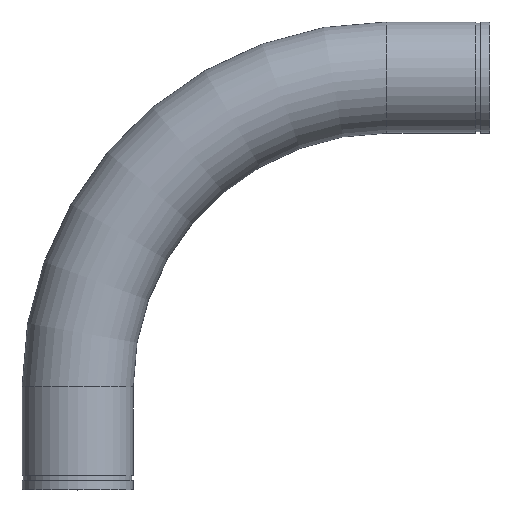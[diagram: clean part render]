
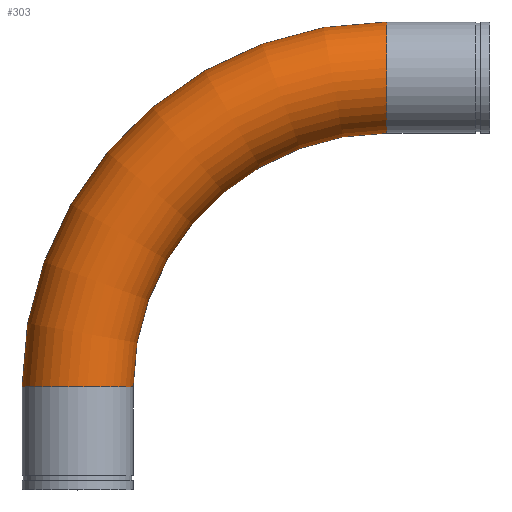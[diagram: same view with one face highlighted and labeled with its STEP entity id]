
A CAD part, top view. The second image highlights one B-rep face of the part: STEP entity #303.
In plain terms, the highlighted toroidal (fillet/blend) face has major radius 609.6 mm and minor radius 109.537 mm.
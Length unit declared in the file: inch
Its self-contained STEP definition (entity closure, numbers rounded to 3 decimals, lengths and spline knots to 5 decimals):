
#46=TOROIDAL_SURFACE('',#362,24.,4.3125);
#89=FACE_OUTER_BOUND('',#109,.T.);
#109=EDGE_LOOP('',(#252,#253,#254,#255,#256,#257));
#121=CIRCLE('',#337,4.3125);
#122=CIRCLE('',#338,4.3125);
#138=CIRCLE('',#363,19.6875);
#139=CIRCLE('',#364,4.3125);
#140=CIRCLE('',#365,4.3125);
#147=VERTEX_POINT('',#520);
#148=VERTEX_POINT('',#522);
#163=VERTEX_POINT('',#568);
#164=VERTEX_POINT('',#570);
#173=EDGE_CURVE('',#148,#147,#121,.T.);
#174=EDGE_CURVE('',#147,#148,#122,.T.);
#195=EDGE_CURVE('',#148,#163,#138,.T.);
#196=EDGE_CURVE('',#164,#163,#139,.T.);
#197=EDGE_CURVE('',#163,#164,#140,.T.);
#252=ORIENTED_EDGE('',*,*,#174,.T.);
#253=ORIENTED_EDGE('',*,*,#195,.T.);
#254=ORIENTED_EDGE('',*,*,#196,.F.);
#255=ORIENTED_EDGE('',*,*,#197,.F.);
#256=ORIENTED_EDGE('',*,*,#195,.F.);
#257=ORIENTED_EDGE('',*,*,#173,.T.);
#303=ADVANCED_FACE('',(#89),#46,.T.);
#337=AXIS2_PLACEMENT_3D('',#523,#406,#407);
#338=AXIS2_PLACEMENT_3D('',#524,#408,#409);
#362=AXIS2_PLACEMENT_3D('',#567,#461,#462);
#363=AXIS2_PLACEMENT_3D('',#569,#463,#464);
#364=AXIS2_PLACEMENT_3D('',#571,#465,#466);
#365=AXIS2_PLACEMENT_3D('',#572,#467,#468);
#406=DIRECTION('center_axis',(0.,1.,0.));
#407=DIRECTION('ref_axis',(1.,0.,0.));
#408=DIRECTION('center_axis',(0.,1.,0.));
#409=DIRECTION('ref_axis',(1.,0.,0.));
#461=DIRECTION('center_axis',(0.,0.,1.));
#462=DIRECTION('ref_axis',(1.,0.,0.));
#463=DIRECTION('center_axis',(0.,0.,-1.));
#464=DIRECTION('ref_axis',(1.,0.,0.));
#465=DIRECTION('center_axis',(1.,0.,0.));
#466=DIRECTION('ref_axis',(0.,-1.,0.));
#467=DIRECTION('center_axis',(1.,0.,0.));
#468=DIRECTION('ref_axis',(0.,-1.,0.));
#520=CARTESIAN_POINT('',(-4.3125,-24.,0.));
#522=CARTESIAN_POINT('',(4.3125,-24.,0.));
#523=CARTESIAN_POINT('Origin',(0.,-24.,0.));
#524=CARTESIAN_POINT('Origin',(0.,-24.,0.));
#567=CARTESIAN_POINT('Origin',(24.,-24.,0.));
#568=CARTESIAN_POINT('',(24.,-4.3125,0.));
#569=CARTESIAN_POINT('Origin',(24.,-24.,0.));
#570=CARTESIAN_POINT('',(24.,4.3125,0.));
#571=CARTESIAN_POINT('Origin',(24.,0.,0.));
#572=CARTESIAN_POINT('Origin',(24.,0.,0.));
